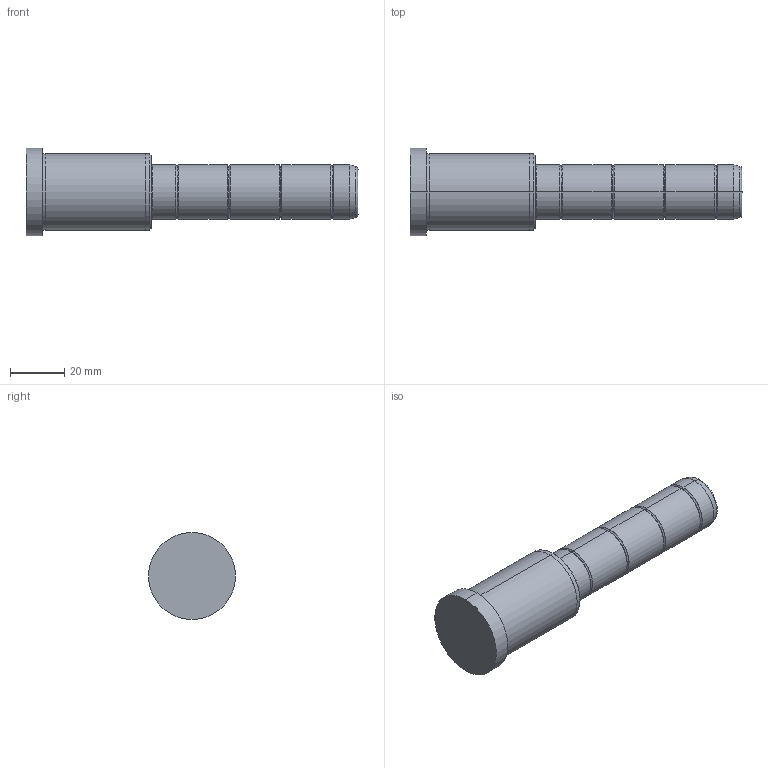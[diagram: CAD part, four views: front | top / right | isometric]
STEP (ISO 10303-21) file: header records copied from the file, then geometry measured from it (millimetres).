
FILE_DESCRIPTION( ( 'STEP AP203' ), '1' );
FILE_NAME( 'C:/Projects/D02 - 20x46x76.step', '2003-01-04T13:56:27', ( ' ' ), ( ' ' ), 'XStep 1.0', ' ', ' ' );
FILE_SCHEMA( ( 'CONFIG_CONTROL_DESIGN' ) );
Length unit declared in the file: metre
Products named in the file (1): 1
Bounding box: 122 x 32 x 32 mm (x, y, z)
Volume: 53180 mm3; surface area: 10538 mm2
Topology: 1 solids, 1 shells, 48 faces, 94 edges, 52 vertices
Faces by surface type: bspline 26, revolution 22
Entity records: 1523 total; most frequent: CARTESIAN_POINT 617, ORIENTED_EDGE 188, DIRECTION 150, EDGE_CURVE 94, AXIS2_PLACEMENT_3D 53, EDGE_LOOP 52, VERTEX_POINT 52, CIRCLE 52
